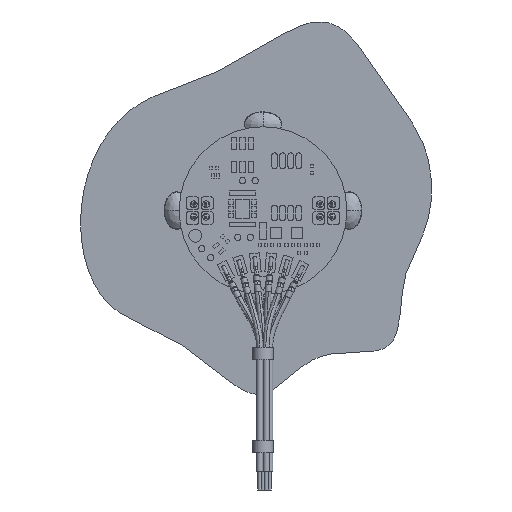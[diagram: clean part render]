
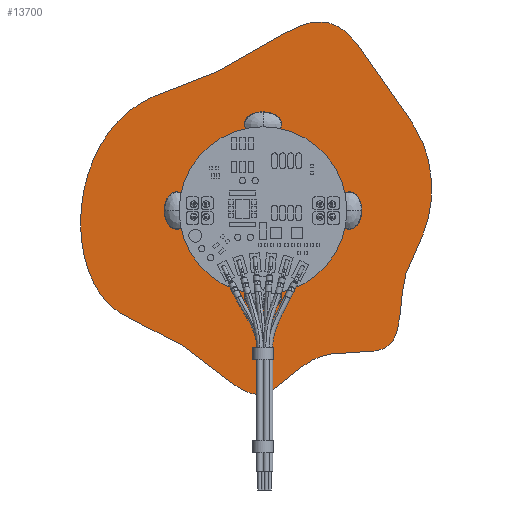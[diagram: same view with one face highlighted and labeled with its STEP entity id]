
A CAD part, front view. The second image highlights one B-rep face of the part: STEP entity #13700.
In plain terms, the highlighted planar face has unit normal (0, -1, 0).
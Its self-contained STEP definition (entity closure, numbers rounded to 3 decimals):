
#591 = CARTESIAN_POINT ( 'NONE',  ( 0., 0., 0. ) ) ;
#1071 = ORIENTED_EDGE ( 'NONE', *, *, #46494, .F. ) ;
#1984 = CARTESIAN_POINT ( 'NONE',  ( 2.952, 0., 14.946 ) ) ;
#2399 = CARTESIAN_POINT ( 'NONE',  ( 0., 0., -14.768 ) ) ;
#2539 = CARTESIAN_POINT ( 'NONE',  ( 1.378, 0., -14.49 ) ) ;
#10099 = CARTESIAN_POINT ( 'NONE',  ( -1.749, 0., -15.121 ) ) ;
#10325 = ORIENTED_EDGE ( 'NONE', *, *, #63954, .F. ) ;
#10612 = CARTESIAN_POINT ( 'NONE',  ( -5.943, 0., -10.024 ) ) ;
#13700 = ADVANCED_FACE ( 'NONE', ( #78407, #70251 ), #102799, .F. ) ;
#17172 = VERTEX_POINT ( 'NONE', #71374 ) ;
#18797 = CARTESIAN_POINT ( 'NONE',  ( 1.624, 0., 14.229 ) ) ;
#22295 = VERTEX_POINT ( 'NONE', #50819 ) ;
#24985 = DIRECTION ( 'NONE',  ( 0., -1., 0. ) ) ;
#26114 = CARTESIAN_POINT ( 'NONE',  ( 0., 0., 6.75 ) ) ;
#26892 = CARTESIAN_POINT ( 'NONE',  ( 0.227, 0., 13.474 ) ) ;
#34380 = B_SPLINE_CURVE_WITH_KNOTS ( 'NONE', 3,
 ( #18797, #1984, #34972, #100972, #51718, #84713, #43613, #76561, #60319, #2539, #102034 ),
 .UNSPECIFIED., .F., .F.,
 ( 4, 1, 1, 1, 1, 1, 1, 1, 4 ),
 ( 0.5, 0.548, 0.63, 0.69, 0.765, 0.811, 0.875, 0.94, 1. ),
 .UNSPECIFIED. ) ;
#34945 = CARTESIAN_POINT ( 'NONE',  ( 0., 0., -14.768 ) ) ;
#34972 = CARTESIAN_POINT ( 'NONE',  ( 6.346, 0., 16.175 ) ) ;
#43044 = EDGE_LOOP ( 'NONE', ( #10325, #1071 ) ) ;
#43111 = DIRECTION ( 'NONE',  ( 0., 0., -1. ) ) ;
#43613 = CARTESIAN_POINT ( 'NONE',  ( 10.732, 0., -5.386 ) ) ;
#46494 = EDGE_CURVE ( 'NONE', #56465, #22295, #86200, .T. ) ;
#49369 = ORIENTED_EDGE ( 'NONE', *, *, #84906, .F. ) ;
#50819 = CARTESIAN_POINT ( 'NONE',  ( 0., 0., -6.75 ) ) ;
#51139 = EDGE_LOOP ( 'NONE', ( #94401, #49369 ) ) ;
#51718 = CARTESIAN_POINT ( 'NONE',  ( 13.72, 0., 5.151 ) ) ;
#56465 = VERTEX_POINT ( 'NONE', #26114 ) ;
#58519 = AXIS2_PLACEMENT_3D ( 'NONE', #591, #24985, #89869 ) ;
#58691 = CARTESIAN_POINT ( 'NONE',  ( -4.193, 0., 10.345 ) ) ;
#60319 = CARTESIAN_POINT ( 'NONE',  ( 4.006, 0., -10.39 ) ) ;
#63954 = EDGE_CURVE ( 'NONE', #22295, #56465, #77816, .T. ) ;
#66407 = CARTESIAN_POINT ( 'NONE',  ( 0., 0., 0. ) ) ;
#66837 = CARTESIAN_POINT ( 'NONE',  ( -15.691, 0., 0.079 ) ) ;
#68466 = CARTESIAN_POINT ( 'NONE',  ( 1.624, 0., 14.229 ) ) ;
#70251 = FACE_OUTER_BOUND ( 'NONE', #51139, .T. ) ;
#71374 = CARTESIAN_POINT ( 'NONE',  ( 1.624, 0., 14.229 ) ) ;
#72961 = AXIS2_PLACEMENT_3D ( 'NONE', #103297, #76264, #77343 ) ;
#76264 = DIRECTION ( 'NONE',  ( 0., 1., 0. ) ) ;
#76561 = CARTESIAN_POINT ( 'NONE',  ( 11.577, 0., -12.529 ) ) ;
#77343 = DIRECTION ( 'NONE',  ( 0., 0., 1. ) ) ;
#77796 = B_SPLINE_CURVE_WITH_KNOTS ( 'NONE', 3,
 ( #34945, #10099, #10612, #85222, #66837, #99861, #58691, #26892, #68466 ),
 .UNSPECIFIED., .F., .F.,
 ( 4, 1, 1, 1, 1, 1, 4 ),
 ( 0., 0.076, 0.164, 0.239, 0.349, 0.449, 0.5 ),
 .UNSPECIFIED. ) ;
#77816 = CIRCLE ( 'NONE', #79516, 6.75 ) ;
#78407 = FACE_BOUND ( 'NONE', #43044, .T. ) ;
#79516 = AXIS2_PLACEMENT_3D ( 'NONE', #66407, #92903, #43111 ) ;
#84713 = CARTESIAN_POINT ( 'NONE',  ( 13.83, 0., -1.015 ) ) ;
#84906 = EDGE_CURVE ( 'NONE', #17172, #102893, #34380, .T. ) ;
#85222 = CARTESIAN_POINT ( 'NONE',  ( -13.176, 0., -8.71 ) ) ;
#86200 = CIRCLE ( 'NONE', #58519, 6.75 ) ;
#89869 = DIRECTION ( 'NONE',  ( 0., 0., -1. ) ) ;
#92903 = DIRECTION ( 'NONE',  ( 0., -1., 0. ) ) ;
#94401 = ORIENTED_EDGE ( 'NONE', *, *, #101845, .F. ) ;
#99861 = CARTESIAN_POINT ( 'NONE',  ( -11.942, 0., 9.247 ) ) ;
#100972 = CARTESIAN_POINT ( 'NONE',  ( 9.815, 0., 9.908 ) ) ;
#101845 = EDGE_CURVE ( 'NONE', #102893, #17172, #77796, .T. ) ;
#102034 = CARTESIAN_POINT ( 'NONE',  ( 0., 0., -14.768 ) ) ;
#102799 = PLANE ( 'NONE',  #72961 ) ;
#102893 = VERTEX_POINT ( 'NONE', #2399 ) ;
#103297 = CARTESIAN_POINT ( 'NONE',  ( 1.624, 0., 14.229 ) ) ;
